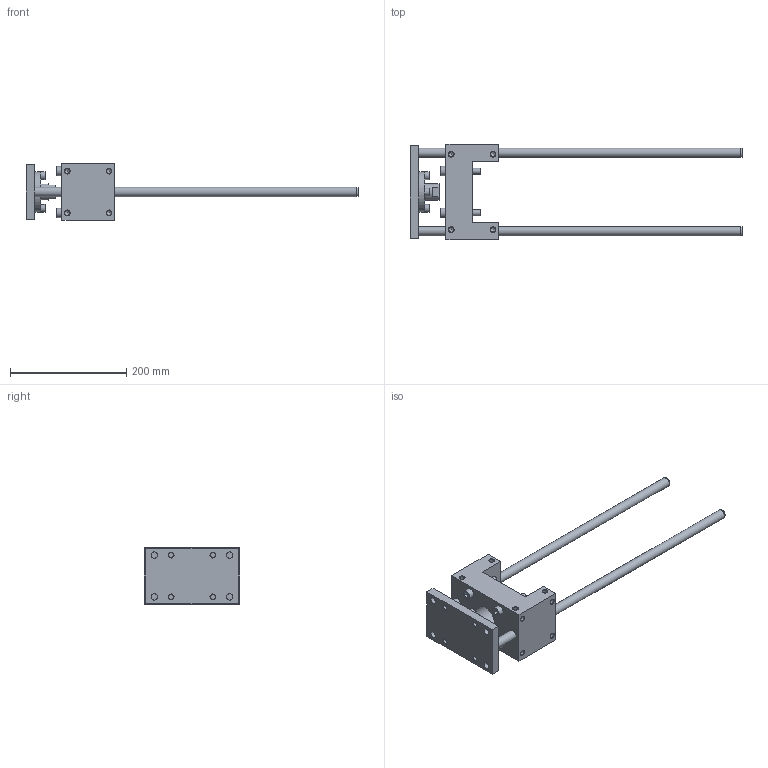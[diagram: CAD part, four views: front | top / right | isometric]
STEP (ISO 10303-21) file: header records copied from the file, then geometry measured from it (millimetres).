
FILE_DESCRIPTION( ( 'STEP AP214' ), '1' );
FILE_NAME( 'U:/Etudes/Top Solid/BIBLIO 3D AVM/TOP/PNEUMATIQUE/GUIDAGES/Type 34 (en U)/_Légère/3487130.step', '2005-05-27T12:36:06', ( ' ' ), ( ' ' ), 'XStep 1.0', ' ', ' ' );
FILE_SCHEMA( ( 'automotive_design' ) );
Length unit declared in the file: metre
Products named in the file (2): 1; 2
Bounding box: 572 x 165 x 98 mm (x, y, z)
Volume: 1363351.8 mm3; surface area: 223410.5 mm2
Topology: 2 solids, 7 shells, 245 faces, 598 edges, 389 vertices
Faces by surface type: plane 108, cylinder 92, cone 45
Full cylindrical faces by diameter (mm): 4.918 x4, 8 x8, 8.376 x32, 8.5 x4, 10 x8, 11 x8, 13 x4, 16 x8, 18.376 x2, 29 x1, 32 x1, 42 x1, 45 x2, 70 x1
Entity records: 8253 total; most frequent: CARTESIAN_POINT 1235, DIRECTION 1080, ORIENTED_EDGE 790, AXIS2_PLACEMENT_3D 446, EDGE_LOOP 436, EDGE_CURVE 395, FACE_OUTER_BOUND 329, VERTEX_POINT 329
